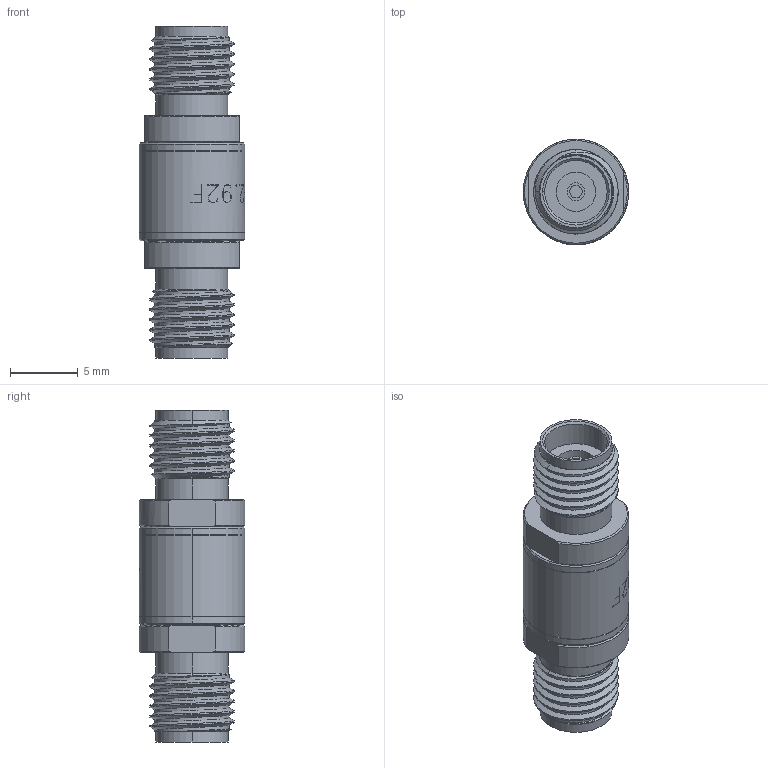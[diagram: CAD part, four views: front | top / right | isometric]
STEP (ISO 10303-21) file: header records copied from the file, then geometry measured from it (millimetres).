
FILE_DESCRIPTION (( 'STEP AP203' ), '1' );
FILE_NAME ('7928000K001-803-Cst.STEP', '2020-10-30T17:41:16', ( '' ), ( '' ), 'SwSTEP 2.0', 'SolidWorks 2019', '' );
FILE_SCHEMA (( 'CONFIG_CONTROL_DESIGN' ));
Length unit declared in the file: inch
Products named in the file (1): 7928000K001-803-Cst
Bounding box: 7.81 x 7.82 x 24.56 mm (x, y, z)
Volume: 773.4 mm3; surface area: 841.2 mm2
Topology: 1 solids, 1 shells, 379 faces, 1027 edges, 681 vertices
Faces by surface type: bspline 160, plane 115, cylinder 76, cone 28
Entity records: 15956 total; most frequent: CARTESIAN_POINT 7409, ORIENTED_EDGE 2054, DIRECTION 1294, EDGE_CURVE 1027, VERTEX_POINT 681, AXIS2_PLACEMENT_3D 439, LINE 416, VECTOR 416
